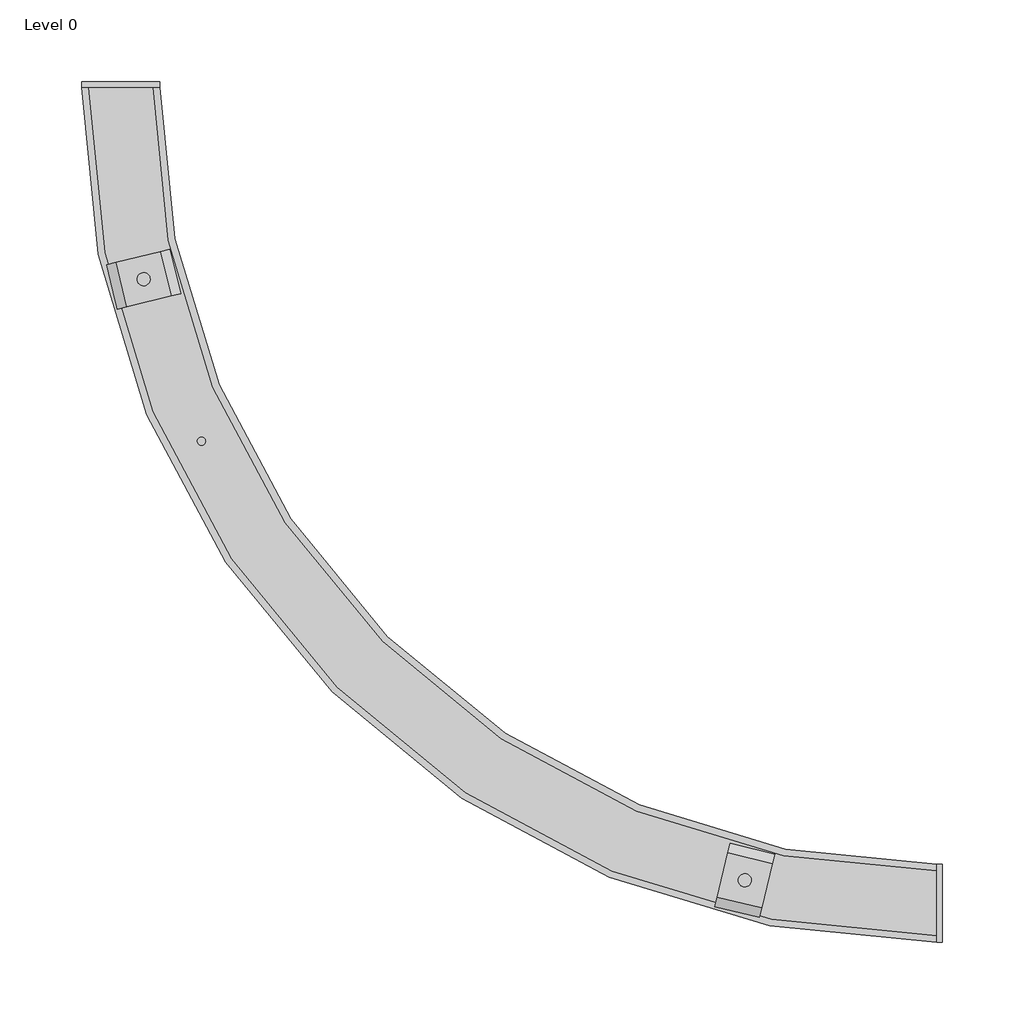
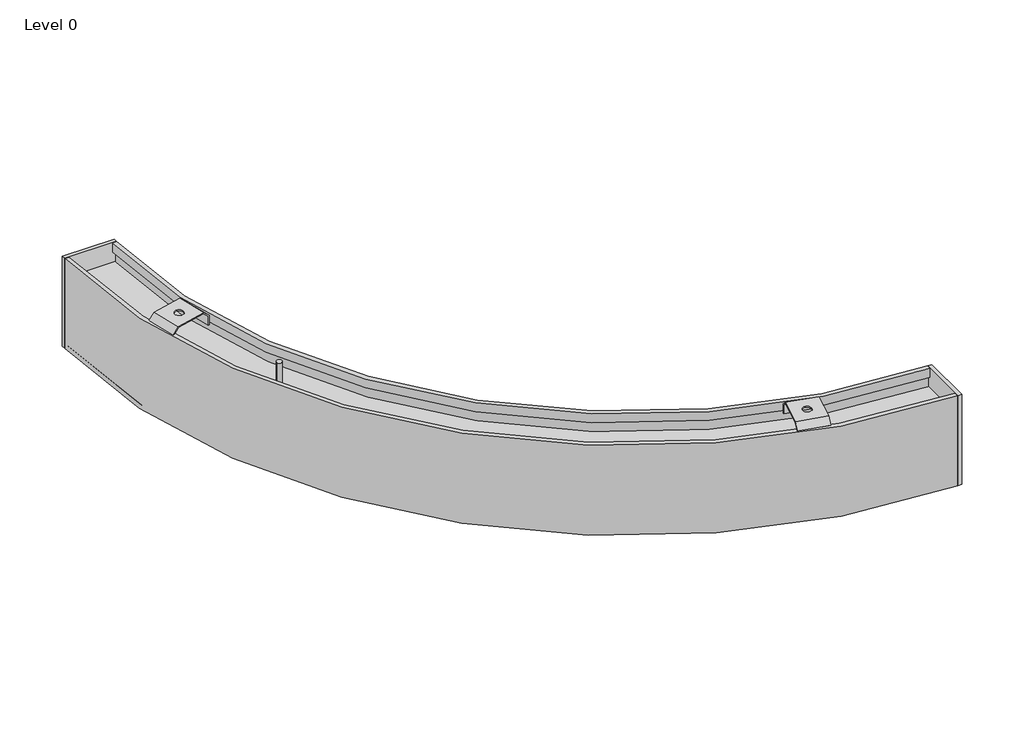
# One storey: 1 light fixture.
"""IFC4 building model written with IfcOpenShell, lengths in millimetres."""

from ifc_helpers import new_model, si_unit, origin, place, context, project, spatial, transform, mapped, element, save
from components import silver_anodized_4000_k_1280_lm_8471934a

model = new_model("IFC4")

# Units and contexts
model_context = context("Model", 3, world=origin())
ifc_project = project(units=[si_unit("LENGTHUNIT", "METRE", prefix="MILLI")], contexts=[model_context])

# Site, building, storey
site = spatial("IfcSite", under=ifc_project)
building = spatial("IfcBuilding", under=site)
storey = spatial("IfcBuildingStorey", under=building, Name="Level 0", Elevation=0.0)

# Light fixture
placement = place(None, origin())
silver_anodized_4000_k_1280_lm_shape = silver_anodized_4000_k_1280_lm_8471934a(model_context)
element("IfcLightFixture", 1, ObjectType="KLUŚ - SERPENT - R NT 1_4 r 500 : Silver Anodized - 4000 K - 1280 lm", at=placement, inside=storey, context=model_context, shape_type="MappedRepresentation", body=[
    mapped(silver_anodized_4000_k_1280_lm_shape, transform((0.0, 0.0, 93.0), x_axis=(1.0, 0.0, 0.0), y_axis=(0.0, -1.0, 0.0), z_axis=(0.0, 0.0, -1.0))),
])

save(model, "model.ifc")
